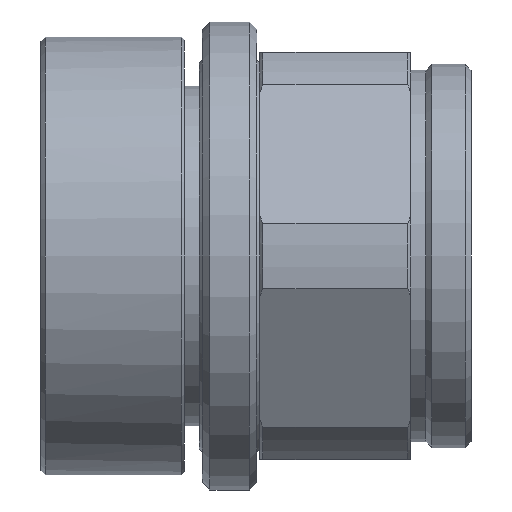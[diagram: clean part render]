
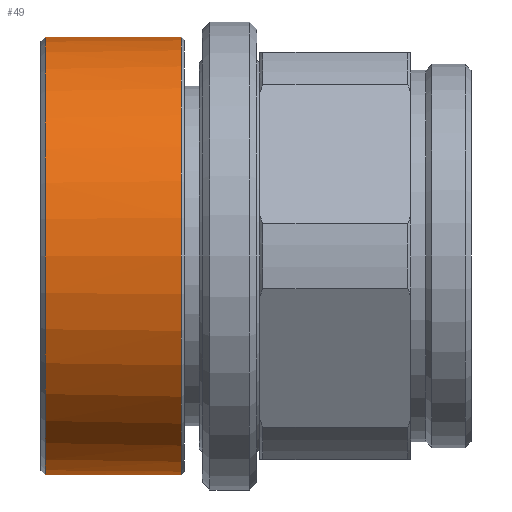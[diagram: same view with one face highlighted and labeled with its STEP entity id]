
A CAD part, front view. The second image highlights one B-rep face of the part: STEP entity #49.
In plain terms, the highlighted cylindrical face has radius 14.5 mm (diameter 29 mm), a partial arc.
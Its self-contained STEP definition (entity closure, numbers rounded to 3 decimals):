
#49 = ADVANCED_FACE ( 'NONE', ( #1031 ), #173, .T. ) ;
#84 = CIRCLE ( 'NONE', #1396, 14.5 ) ;
#103 = DIRECTION ( 'NONE',  ( -1., 0., 0. ) ) ;
#124 = DIRECTION ( 'NONE',  ( 1., 0., 0. ) ) ;
#127 = ORIENTED_EDGE ( 'NONE', *, *, #3436, .T. ) ;
#173 = CYLINDRICAL_SURFACE ( 'NONE', #560, 14.5 ) ;
#221 = CARTESIAN_POINT ( 'NONE',  ( -50.424, 0., -14.5 ) ) ;
#434 = CARTESIAN_POINT ( 'NONE',  ( -41.7, 0., 0. ) ) ;
#450 = CARTESIAN_POINT ( 'NONE',  ( -50.424, 0., 0. ) ) ;
#462 = CARTESIAN_POINT ( 'NONE',  ( -41., -0.5, -14.491 ) ) ;
#520 = LINE ( 'NONE', #221, #3313 ) ;
#521 = AXIS2_PLACEMENT_3D ( 'NONE', #1844, #124, #2136 ) ;
#560 = AXIS2_PLACEMENT_3D ( 'NONE', #450, #3630, #735 ) ;
#600 = LINE ( 'NONE', #3645, #1357 ) ;
#643 = VERTEX_POINT ( 'NONE', #2363 ) ;
#670 = VERTEX_POINT ( 'NONE', #957 ) ;
#689 = EDGE_CURVE ( 'NONE', #643, #1492, #84, .T. ) ;
#701 = VECTOR ( 'NONE', #103, 1000. ) ;
#724 = DIRECTION ( 'NONE',  ( 0., 0., 1. ) ) ;
#735 = DIRECTION ( 'NONE',  ( 0., 0., 1. ) ) ;
#817 = CIRCLE ( 'NONE', #521, 14.5 ) ;
#827 = ORIENTED_EDGE ( 'NONE', *, *, #3721, .T. ) ;
#926 = DIRECTION ( 'NONE',  ( -1., 0., 0. ) ) ;
#957 = CARTESIAN_POINT ( 'NONE',  ( -41.7, -0.5, 14.491 ) ) ;
#1031 = FACE_OUTER_BOUND ( 'NONE', #3639, .T. ) ;
#1140 = DIRECTION ( 'NONE',  ( 1., 0., 0. ) ) ;
#1198 = ORIENTED_EDGE ( 'NONE', *, *, #3552, .F. ) ;
#1201 = DIRECTION ( 'NONE',  ( -1., 0., 0. ) ) ;
#1202 = EDGE_CURVE ( 'NONE', #1528, #670, #1283, .T. ) ;
#1209 = CARTESIAN_POINT ( 'NONE',  ( -50.424, 0., 14.5 ) ) ;
#1283 = CIRCLE ( 'NONE', #2622, 14.5 ) ;
#1289 = VERTEX_POINT ( 'NONE', #2205 ) ;
#1354 = VERTEX_POINT ( 'NONE', #2161 ) ;
#1357 = VECTOR ( 'NONE', #1602, 1000. ) ;
#1396 = AXIS2_PLACEMENT_3D ( 'NONE', #2949, #1201, #3239 ) ;
#1492 = VERTEX_POINT ( 'NONE', #3395 ) ;
#1528 = VERTEX_POINT ( 'NONE', #2824 ) ;
#1536 = VECTOR ( 'NONE', #926, 1000. ) ;
#1602 = DIRECTION ( 'NONE',  ( 1., 0., 0. ) ) ;
#1819 = CARTESIAN_POINT ( 'NONE',  ( -50.424, -0.5, 14.491 ) ) ;
#1844 = CARTESIAN_POINT ( 'NONE',  ( -41., 0., 0. ) ) ;
#1847 = CARTESIAN_POINT ( 'NONE',  ( -41., -0.5, 14.491 ) ) ;
#1981 = VERTEX_POINT ( 'NONE', #462 ) ;
#2071 = EDGE_CURVE ( 'NONE', #1492, #1289, #2398, .T. ) ;
#2136 = DIRECTION ( 'NONE',  ( 0., 0., -1. ) ) ;
#2161 = CARTESIAN_POINT ( 'NONE',  ( -41., 0., -14.5 ) ) ;
#2205 = CARTESIAN_POINT ( 'NONE',  ( -41., 0., 14.5 ) ) ;
#2235 = DIRECTION ( 'NONE',  ( -1., 0., 0. ) ) ;
#2363 = CARTESIAN_POINT ( 'NONE',  ( -32.7, 0., -14.5 ) ) ;
#2389 = EDGE_CURVE ( 'NONE', #1981, #1354, #817, .T. ) ;
#2398 = LINE ( 'NONE', #1209, #1536 ) ;
#2456 = DIRECTION ( 'NONE',  ( -1., 0., 0. ) ) ;
#2622 = AXIS2_PLACEMENT_3D ( 'NONE', #434, #2456, #724 ) ;
#2824 = CARTESIAN_POINT ( 'NONE',  ( -41.7, -0.5, -14.491 ) ) ;
#2889 = CARTESIAN_POINT ( 'NONE',  ( -41., 0., 0. ) ) ;
#2949 = CARTESIAN_POINT ( 'NONE',  ( -32.7, 0., 0. ) ) ;
#2962 = ORIENTED_EDGE ( 'NONE', *, *, #689, .T. ) ;
#3040 = ORIENTED_EDGE ( 'NONE', *, *, #1202, .F. ) ;
#3054 = EDGE_CURVE ( 'NONE', #3376, #670, #3058, .T. ) ;
#3058 = LINE ( 'NONE', #1819, #701 ) ;
#3112 = ORIENTED_EDGE ( 'NONE', *, *, #3054, .T. ) ;
#3135 = AXIS2_PLACEMENT_3D ( 'NONE', #2889, #1140, #3181 ) ;
#3181 = DIRECTION ( 'NONE',  ( 0., 0., -1. ) ) ;
#3239 = DIRECTION ( 'NONE',  ( 0., 0., 1. ) ) ;
#3259 = ORIENTED_EDGE ( 'NONE', *, *, #2071, .T. ) ;
#3313 = VECTOR ( 'NONE', #2235, 1000. ) ;
#3376 = VERTEX_POINT ( 'NONE', #1847 ) ;
#3385 = ORIENTED_EDGE ( 'NONE', *, *, #2389, .T. ) ;
#3395 = CARTESIAN_POINT ( 'NONE',  ( -32.7, 0., 14.5 ) ) ;
#3436 = EDGE_CURVE ( 'NONE', #1528, #1981, #600, .T. ) ;
#3542 = CIRCLE ( 'NONE', #3135, 14.5 ) ;
#3552 = EDGE_CURVE ( 'NONE', #643, #1354, #520, .T. ) ;
#3630 = DIRECTION ( 'NONE',  ( -1., 0., 0. ) ) ;
#3639 = EDGE_LOOP ( 'NONE', ( #1198, #2962, #3259, #827, #3112, #3040, #127, #3385 ) ) ;
#3645 = CARTESIAN_POINT ( 'NONE',  ( -50.424, -0.5, -14.491 ) ) ;
#3721 = EDGE_CURVE ( 'NONE', #1289, #3376, #3542, .T. ) ;
